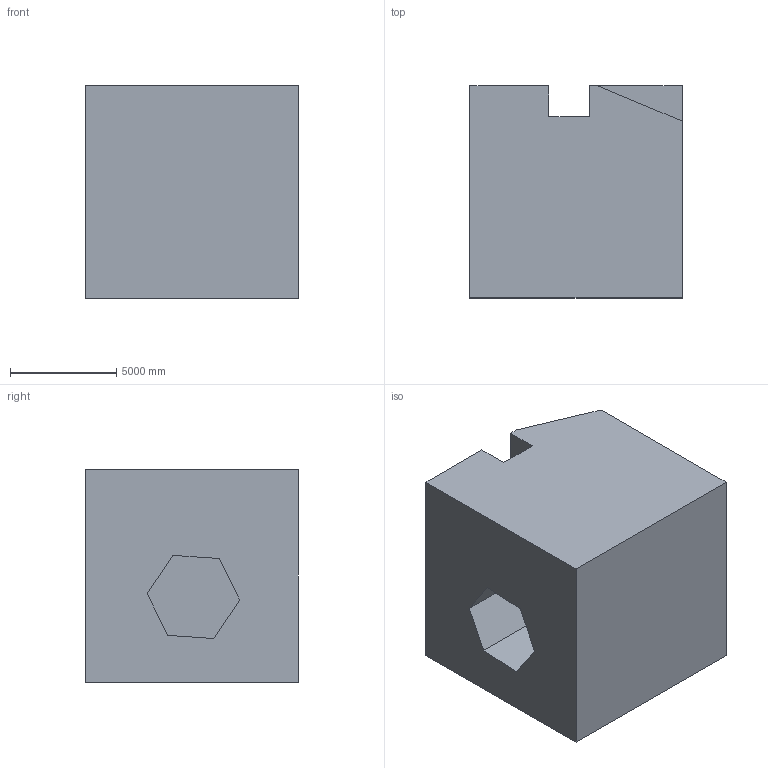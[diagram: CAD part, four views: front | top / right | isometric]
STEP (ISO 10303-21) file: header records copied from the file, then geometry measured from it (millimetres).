
FILE_DESCRIPTION (( 'STEP AP203' ), '1' );
FILE_NAME ('1368.STEP', '2022-08-18T14:04:54', ( 'user' ), ( '' ), 'SwSTEP 2.0', 'SolidWorks 2021', '' );
FILE_SCHEMA (( 'CONFIG_CONTROL_DESIGN' ));
Length unit declared in the file: centimetre
Products named in the file (1): 1368
Bounding box: 10000 x 10000 x 10000 mm (x, y, z)
Volume: 894529657202.4 mm3; surface area: 681617203.9 mm2
Topology: 1 solids, 1 shells, 21 faces, 54 edges, 36 vertices
Faces by surface type: plane 21
Entity records: 705 total; most frequent: CARTESIAN_POINT 112, ORIENTED_EDGE 108, DIRECTION 98, LINE 54, VECTOR 54, EDGE_CURVE 54, VERTEX_POINT 36, AXIS2_PLACEMENT_3D 22
